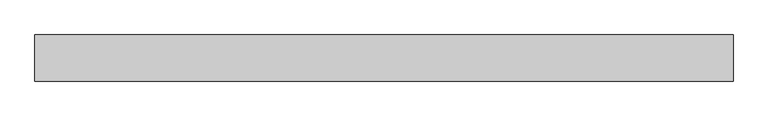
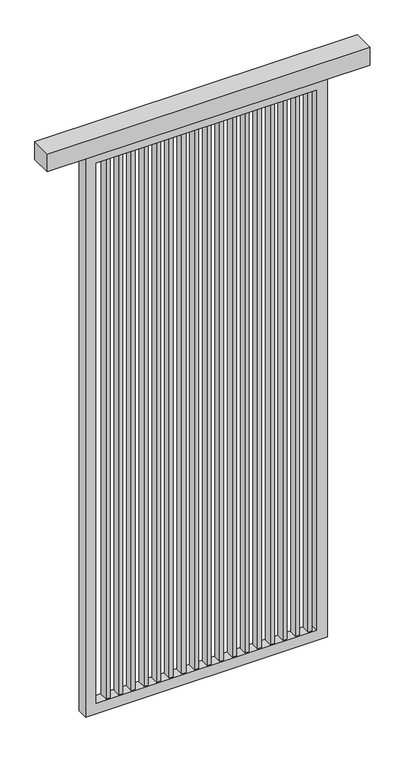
"""IFC4 building model written with IfcOpenShell, lengths in millimetres: proxy geometry, Renson_Amani_Loggia_Linea_Fix : Renson_Amani_Loggia_Linea_Fix."""

from ifc_helpers import new_model, si_unit, frame, origin, place, context, project, spatial, polyline, outline, extrude, source, transform, mapped, element, save


def generic_models_c88c9adc(model_context):
    return source(origin(), model_context, "Body", "SweptSolid", [
        extrude(outline(polyline([(396.5, 15.0), (396.5, -15.0), (381.5, -15.0), (381.5, 15.0), (396.5, 15.0)])), frame((0.0, 0.0, 85.0), z_axis=(0.0, 0.0, 1.0), x_axis=(1.0, 0.0, 0.0)), (0.0, 0.0, 1.0), 2125.0),
        extrude(outline(polyline([(349.5, 15.0), (349.5, -15.0), (334.5, -15.0), (334.5, 15.0), (349.5, 15.0)])), frame((0.0, 0.0, 85.0), z_axis=(0.0, 0.0, 1.0), x_axis=(1.0, 0.0, 0.0)), (0.0, 0.0, 1.0), 2125.0),
        extrude(outline(polyline([(302.5, 15.0), (302.5, -15.0), (287.5, -15.0), (287.5, 15.0), (302.5, 15.0)])), frame((0.0, 0.0, 85.0), z_axis=(0.0, 0.0, 1.0), x_axis=(1.0, 0.0, 0.0)), (0.0, 0.0, 1.0), 2125.0),
        extrude(outline(polyline([(255.5, 15.0), (255.5, -15.0), (240.5, -15.0), (240.5, 15.0), (255.5, 15.0)])), frame((0.0, 0.0, 85.0), z_axis=(0.0, 0.0, 1.0), x_axis=(1.0, 0.0, 0.0)), (0.0, 0.0, 1.0), 2125.0),
        extrude(outline(polyline([(208.5, 15.0), (208.5, -15.0), (193.5, -15.0), (193.5, 15.0), (208.5, 15.0)])), frame((0.0, 0.0, 85.0), z_axis=(0.0, 0.0, 1.0), x_axis=(1.0, 0.0, 0.0)), (0.0, 0.0, 1.0), 2125.0),
        extrude(outline(polyline([(161.5, 15.0), (161.5, -15.0), (146.5, -15.0), (146.5, 15.0), (161.5, 15.0)])), frame((0.0, 0.0, 85.0), z_axis=(0.0, 0.0, 1.0), x_axis=(1.0, 0.0, 0.0)), (0.0, 0.0, 1.0), 2125.0),
        extrude(outline(polyline([(114.5, 15.0), (114.5, -15.0), (99.5, -15.0), (99.5, 15.0), (114.5, 15.0)])), frame((0.0, 0.0, 85.0), z_axis=(0.0, 0.0, 1.0), x_axis=(1.0, 0.0, 0.0)), (0.0, 0.0, 1.0), 2125.0),
        extrude(outline(polyline([(67.5, 15.0), (67.5, -15.0), (52.5, -15.0), (52.5, 15.0), (67.5, 15.0)])), frame((0.0, 0.0, 85.0), z_axis=(0.0, 0.0, 1.0), x_axis=(1.0, 0.0, 0.0)), (0.0, 0.0, 1.0), 2125.0),
        extrude(outline(polyline([(20.5, 15.0), (20.5, -15.0), (5.5, -15.0), (5.5, 15.0), (20.5, 15.0)])), frame((0.0, 0.0, 85.0), z_axis=(0.0, 0.0, 1.0), x_axis=(1.0, 0.0, 0.0)), (0.0, 0.0, 1.0), 2125.0),
        extrude(outline(polyline([(-26.5, 15.0), (-26.5, -15.0), (-41.5, -15.0), (-41.5, 15.0), (-26.5, 15.0)])), frame((0.0, 0.0, 85.0), z_axis=(0.0, 0.0, 1.0), x_axis=(1.0, 0.0, 0.0)), (0.0, 0.0, 1.0), 2125.0),
        extrude(outline(polyline([(-73.5, 15.0), (-73.5, -15.0), (-88.5, -15.0), (-88.5, 15.0), (-73.5, 15.0)])), frame((0.0, 0.0, 85.0), z_axis=(0.0, 0.0, 1.0), x_axis=(1.0, 0.0, 0.0)), (0.0, 0.0, 1.0), 2125.0),
        extrude(outline(polyline([(-120.5, 15.0), (-120.5, -15.0), (-135.5, -15.0), (-135.5, 15.0), (-120.5, 15.0)])), frame((0.0, 0.0, 85.0), z_axis=(0.0, 0.0, 1.0), x_axis=(1.0, 0.0, 0.0)), (0.0, 0.0, 1.0), 2125.0),
        extrude(outline(polyline([(-167.5, 15.0), (-167.5, -15.0), (-182.5, -15.0), (-182.5, 15.0), (-167.5, 15.0)])), frame((0.0, 0.0, 85.0), z_axis=(0.0, 0.0, 1.0), x_axis=(1.0, 0.0, 0.0)), (0.0, 0.0, 1.0), 2125.0),
        extrude(outline(polyline([(-214.5, 15.0), (-214.5, -15.0), (-229.5, -15.0), (-229.5, 15.0), (-214.5, 15.0)])), frame((0.0, 0.0, 85.0), z_axis=(0.0, 0.0, 1.0), x_axis=(1.0, 0.0, 0.0)), (0.0, 0.0, 1.0), 2125.0),
        extrude(outline(polyline([(-261.5, 15.0), (-261.5, -15.0), (-276.5, -15.0), (-276.5, 15.0), (-261.5, 15.0)])), frame((0.0, 0.0, 85.0), z_axis=(0.0, 0.0, 1.0), x_axis=(1.0, 0.0, 0.0)), (0.0, 0.0, 1.0), 2125.0),
        extrude(outline(polyline([(-308.5, 15.0), (-308.5, -15.0), (-323.5, -15.0), (-323.5, 15.0), (-308.5, 15.0)])), frame((0.0, 0.0, 85.0), z_axis=(0.0, 0.0, 1.0), x_axis=(1.0, 0.0, 0.0)), (0.0, 0.0, 1.0), 2125.0),
        extrude(outline(polyline([(-355.5, 15.0), (-355.5, -15.0), (-370.5, -15.0), (-370.5, 15.0), (-355.5, 15.0)])), frame((0.0, 0.0, 85.0), z_axis=(0.0, 0.0, 1.0), x_axis=(1.0, 0.0, 0.0)), (0.0, 0.0, 1.0), 2125.0),
        extrude(outline(polyline([(600.0, 46.0), (600.0, -34.0), (-600.0, -34.0), (-600.0, 46.0), (600.0, 46.0)])), frame((0.0, 0.0, 2250.0), z_axis=(0.0, 0.0, 1.0), x_axis=(1.0, 0.0, 0.0)), (0.0, 0.0, 1.0), 70.0),
        extrude(outline(polyline([(2250.0, -450.0), (45.0, -450.0), (45.0, 450.0), (2250.0, 450.0), (2250.0, -450.0)]), holes=[polyline([(2210.0, 410.0), (85.0, 410.0), (85.0, -410.0), (2210.0, -410.0), (2210.0, 410.0)])]), frame((0.0, -20.0, 0.0), z_axis=(0.0, 1.0, 0.0), x_axis=(0.0, 0.0, 1.0)), (0.0, 0.0, 1.0), 40.0),
    ])


if __name__ == "__main__":
    model = new_model("IFC4")
    model_context = context("Model", 3, world=origin())
    ifc_project = project(units=[si_unit("LENGTHUNIT", "METRE", prefix="MILLI")], contexts=[model_context])
    site = spatial("IfcSite", under=ifc_project)
    building = spatial("IfcBuilding", under=site)
    placement = place(None, origin())
    generic_models_shape = generic_models_c88c9adc(model_context)
    element("IfcBuildingElementProxy", 1, Name="Renson_Amani_Loggia_Linea_Fix : Renson_Amani_Loggia_Linea_Fix", ObjectType="Renson_Amani_Loggia_Linea_Fix : Renson_Amani_Loggia_Linea_Fix", at=placement, inside=building, context=model_context, shape_type="MappedRepresentation", body=[
        mapped(generic_models_shape, transform((0.0, 0.0, 0.0), x_axis=(1.0, 0.0, 0.0), y_axis=(0.0, 1.0, 0.0), z_axis=(0.0, 0.0, 1.0))),
    ])
    save(model, "model.ifc")
